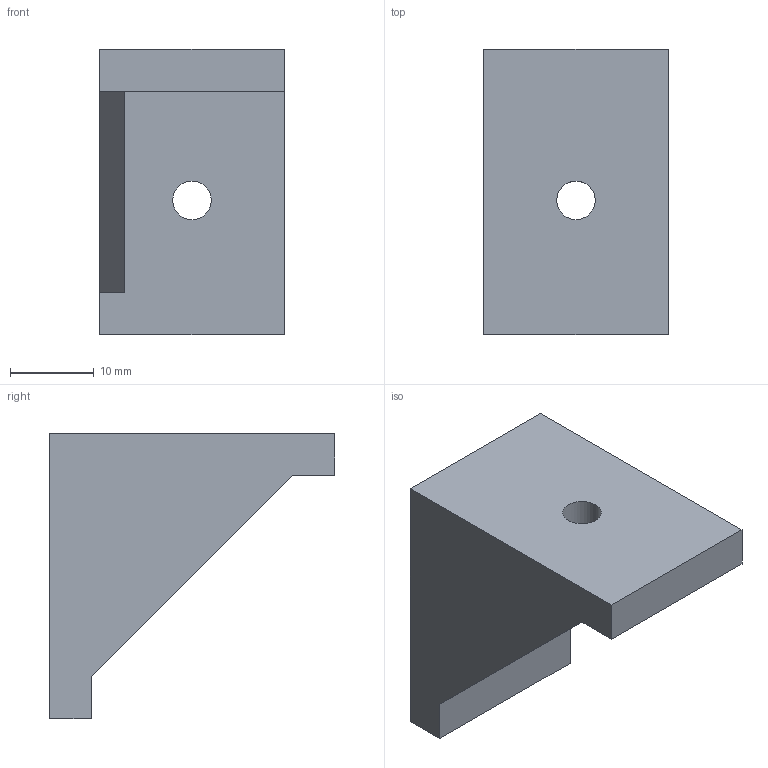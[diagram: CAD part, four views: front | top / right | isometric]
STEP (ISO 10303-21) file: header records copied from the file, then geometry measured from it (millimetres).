
FILE_DESCRIPTION(('Open CASCADE Model'),'2;1');
FILE_NAME('Open CASCADE Shape Model','2026-10-13T11:47:37',('Author'),( 'Open CASCADE'),'Open CASCADE STEP processor 7.8','Open CASCADE 7.8' ,'Unknown');
FILE_SCHEMA(('AUTOMOTIVE_DESIGN { 1 0 10303 214 1 1 1 1 }'));
Length unit declared in the file: millimetre
Products named in the file (1): Open CASCADE STEP translator 7.8 37
Bounding box: 22 x 34 x 34 mm (x, y, z)
Volume: 7627.8 mm3; surface area: 4233.9 mm2
Topology: 1 solids, 1 shells, 12 faces, 30 edges, 20 vertices
Faces by surface type: plane 10, cylinder 2
Full cylindrical faces by diameter (mm): 4.6 x2
Entity records: 772 total; most frequent: CARTESIAN_POINT 135, DIRECTION 118, LINE 82, VECTOR 82, ORIENTED_EDGE 60, PCURVE 60, DEFINITIONAL_REPRESENTATION 60, EDGE_CURVE 30
